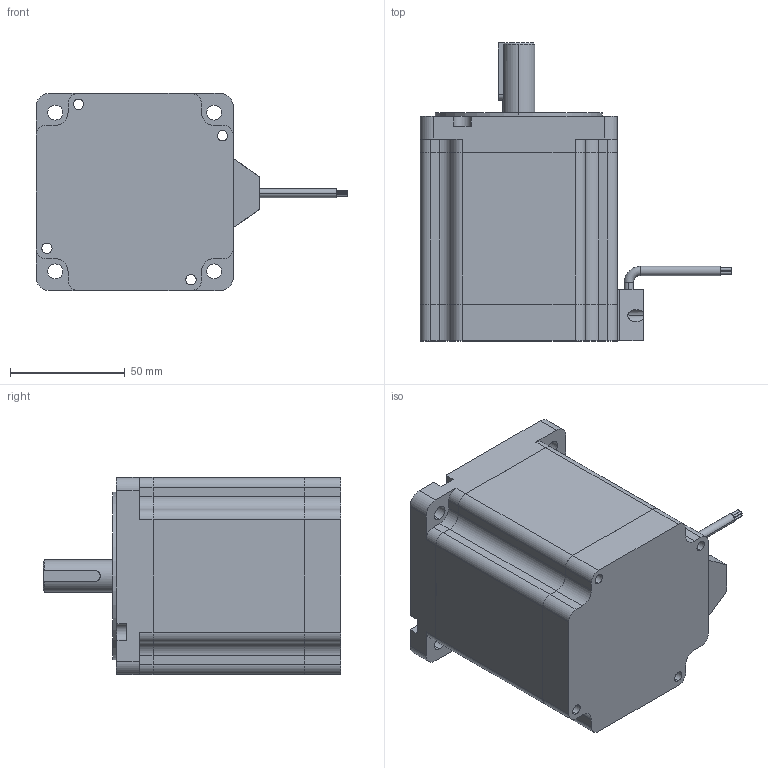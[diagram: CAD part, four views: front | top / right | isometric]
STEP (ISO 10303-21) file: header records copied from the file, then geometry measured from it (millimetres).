
FILE_DESCRIPTION (( 'STEP AP203' ), '1' );
FILE_NAME ('86HS298-6-4A-U14L32.STEP', '2020-04-08T00:25:54', ( '' ), ( '' ), 'SwSTEP 2.0', 'SolidWorks 2017', '' );
FILE_SCHEMA (( 'CONFIG_CONTROL_DESIGN' ));
Length unit declared in the file: millimetre
Products named in the file (1): 86HS298-6-4A-U14L32
Bounding box: 136 x 130 x 86 mm (x, y, z)
Volume: 664707.6 mm3; surface area: 61730.4 mm2
Topology: 2 solids, 2 shells, 217 faces, 582 edges, 381 vertices
Faces by surface type: cylinder 109, plane 90, torus 10, cone 8
Entity records: 7032 total; most frequent: DIRECTION 1257, CARTESIAN_POINT 1230, ORIENTED_EDGE 1164, EDGE_CURVE 582, AXIS2_PLACEMENT_3D 464, VERTEX_POINT 381, LINE 329, VECTOR 329
